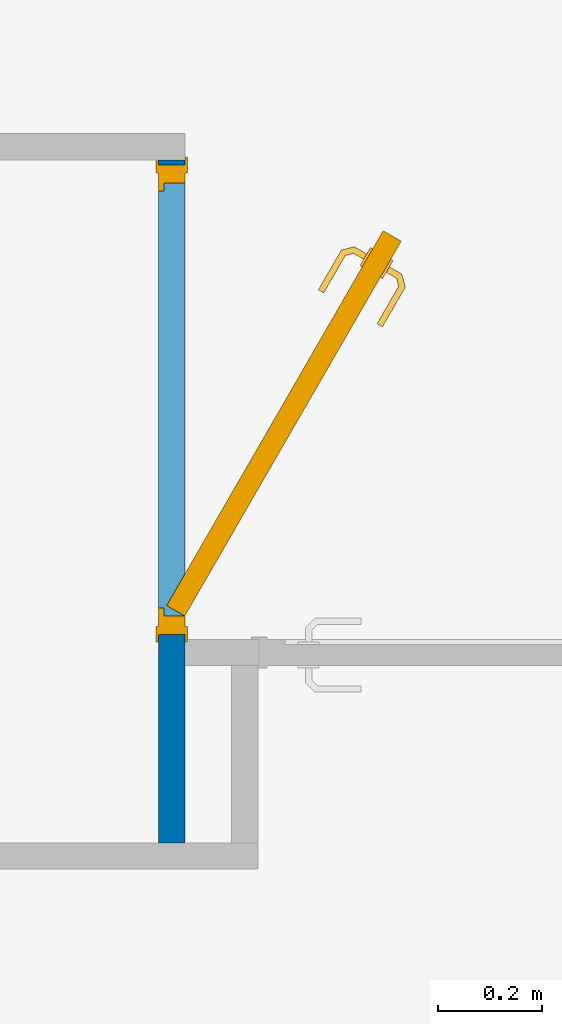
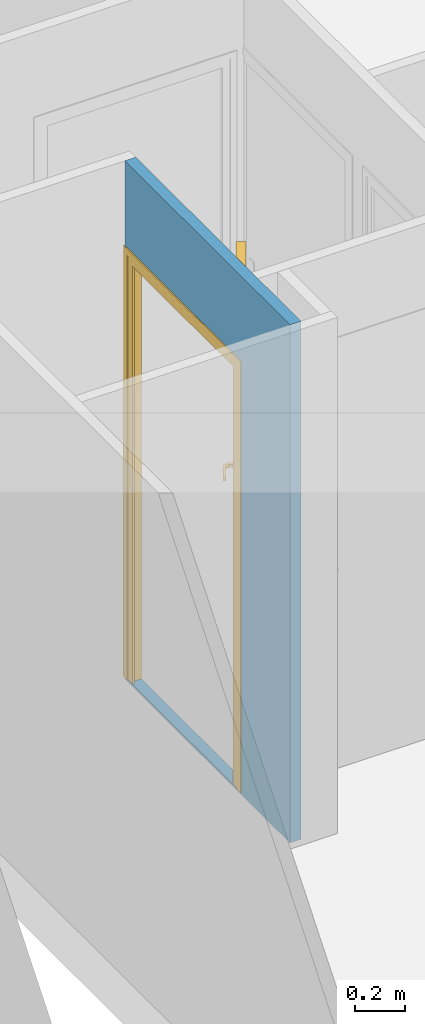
# One storey, part 4 of 13: 1 door, 1 wall, 1 opening.
"""IFC2X3 building model written with IfcOpenShell, lengths in metres."""

from ifc_helpers import new_model, entity, si_unit, converted_unit, derived_unit, direction, frame, frame_2d, origin, place, context, subcontext, project, spatial, rectangle, extrude, faceted_brep, source, transform, mapped, material, material_list, layer, layer_set, layer_usage, type_object, type_shapes, element, fill, save


model = new_model("IFC2X3")

# Units and contexts
model_context = context("Model", 3, precision=1e-05, world=origin(), true_north=direction((6.12303176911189e-17, 1.0)))
context_of_model = context(None, 3, precision=1e-05, world=origin(), true_north=direction((6.12303176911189e-17, 1.0)))
body_context = subcontext(model_context, "Body", "Model", "MODEL_VIEW")
ifc_project = project(units=[si_unit("LENGTHUNIT", "METRE"), si_unit("AREAUNIT", "SQUARE_METRE"), si_unit("VOLUMEUNIT", "CUBIC_METRE"), converted_unit("PLANEANGLEUNIT", "DEGREE", entity("IfcRatioMeasure", 0.0174532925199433), si_unit("PLANEANGLEUNIT", "RADIAN"), dimensions=[0, 0, 0, 0, 0, 0, 0]), si_unit("MASSUNIT", "GRAM", prefix="KILO"), si_unit("TIMEUNIT", "SECOND"), si_unit("FREQUENCYUNIT", "HERTZ"), si_unit("THERMODYNAMICTEMPERATUREUNIT", "DEGREE_CELSIUS"), derived_unit("THERMALTRANSMITTANCEUNIT", [(si_unit("MASSUNIT", "GRAM", prefix="KILO"), 1), (si_unit("THERMODYNAMICTEMPERATUREUNIT", "KELVIN"), -1), (si_unit("TIMEUNIT", "SECOND"), -3)]), derived_unit("VOLUMETRICFLOWRATEUNIT", [(si_unit("LENGTHUNIT", "METRE"), 3), (si_unit("TIMEUNIT", "SECOND"), -1)]), si_unit("ELECTRICCURRENTUNIT", "AMPERE"), si_unit("ELECTRICVOLTAGEUNIT", "VOLT"), si_unit("POWERUNIT", "WATT"), si_unit("FORCEUNIT", "NEWTON", prefix="KILO"), si_unit("ILLUMINANCEUNIT", "LUX"), si_unit("LUMINOUSFLUXUNIT", "LUMEN"), si_unit("LUMINOUSINTENSITYUNIT", "CANDELA"), derived_unit("USERDEFINED", [(si_unit("MASSUNIT", "GRAM", prefix="KILO"), -1), (si_unit("LENGTHUNIT", "METRE"), -2), (si_unit("TIMEUNIT", "SECOND"), 3), (si_unit("LUMINOUSFLUXUNIT", "LUMEN"), 1)]), derived_unit("LINEARVELOCITYUNIT", [(si_unit("LENGTHUNIT", "METRE"), 1), (si_unit("TIMEUNIT", "SECOND"), -1)]), si_unit("PRESSUREUNIT", "PASCAL"), derived_unit("USERDEFINED", [(si_unit("LENGTHUNIT", "METRE"), -2), (si_unit("MASSUNIT", "GRAM", prefix="KILO"), 1), (si_unit("TIMEUNIT", "SECOND"), -2)])], contexts=[model_context, context_of_model])

# Site, building, storey
site_placement = place(None, origin())
site = spatial("IfcSite", under=ifc_project, at=site_placement, Name="Surface", CompositionType="ELEMENT")
building_placement = place(site_placement, origin())
building = spatial("IfcBuilding", under=site, at=building_placement, CompositionType="ELEMENT")
storey_placement = place(building_placement, frame((0.0, 0.0, 2.74)))
storey = spatial("IfcBuildingStorey", under=building, at=storey_placement, Name="Plan étage", CompositionType="ELEMENT", Elevation=2.74)

# Wall, opening, door
ifc_material_1 = material(Name="Maçonnerie - Isolant(1)")
ifc_layer = layer(ifc_material_1, 0.05)
ifc_layer_set = layer_set([ifc_layer], Name="Mur de base:Int. plâtre 50 mm")
ifc_layer_usage = layer_usage(ifc_layer_set, "AXIS2", "NEGATIVE", 0.025)
wall_type = type_object("IfcWallType", Name="Mur de base:Int. plâtre 50 mm", PredefinedType="STANDARD", material=ifc_layer_set)
wall_placement = place(storey_placement, frame((-9.26608881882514, 1.38425578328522, -0.00999999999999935), z_axis=(0.0, 0.0, 1.0), x_axis=(0.0, -1.0, 0.0)))
wall = element("IfcWallStandardCase", 1, at=wall_placement, inside=storey, type_object=wall_type, material=ifc_layer_usage, Name="Mur de base:Int. plâtre 50 mm", ObjectType="Mur de base:Int. plâtre 50 mm", context=body_context, shape_type="SweptSolid", body=[
    extrude(rectangle(XDim=1.31, YDim=0.0499999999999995, at=frame_2d((0.655000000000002, 0.0), x_axis=(-1.0, 0.0))), origin(), (0.0, 0.0, 1.0), 2.51),
])
opening_placement = place(wall_placement, frame((0.0100000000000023, -0.025, 0.00999999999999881)))
opening = element("IfcOpeningElement", 2, at=opening_placement, cuts=wall, Name="Int. Simple:PP (0.83m x 2.04m):1", ObjectType="Opening", context=body_context, shape_type="SweptSolid", body=[
    extrude(rectangle(XDim=2.075, YDim=0.9, at=frame_2d((1.0375, 0.45), x_axis=(1.0, 0.0))), frame((0.0, 0.0, 0.0), z_axis=(0.0, 1.0, 0.0), x_axis=(0.0, 0.0, 1.0)), (0.0, 0.0, 1.0), 0.05),
])
ifc_material_2 = material(Name="Finition Peinture - Blanc satiné")
ifc_material_3 = material(Name="Bois - Panneau de porte")
ifc_material_4 = material(Name="Bois - Cadre de porte")
ifc_material_list_1 = material_list([ifc_material_2, ifc_material_3, ifc_material_4])
ifc_material_list_2 = material_list([ifc_material_2, ifc_material_3, ifc_material_4])
door_style = type_object("IfcDoorStyle", Name="PP (0.83m x 2.04m)", ConstructionType="NOTDEFINED", OperationType="SINGLE_SWING_RIGHT", ParameterTakesPrecedence=False, Sizeable=False, material=ifc_material_list_2)
shared_shape = source(origin(), body_context, "Body", "Brep", [
    faceted_brep([(0.786660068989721, -0.399330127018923, 0.870000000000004), (0.786660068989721, -0.399330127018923, 1.08), (0.778305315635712, -0.394506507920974, 1.08399601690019), (0.769339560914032, -0.389330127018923, 1.08535898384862), (0.760373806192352, -0.384153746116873, 1.08399601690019), (0.752019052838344, -0.379330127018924, 1.08), (0.752019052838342, -0.379330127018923, 0.870000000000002), (0.760373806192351, -0.384153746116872, 0.866003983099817), (0.769339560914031, -0.389330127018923, 0.86464101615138), (0.778305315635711, -0.394506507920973, 0.866003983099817), (0.789160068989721, -0.395000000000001, 1.08), (0.789160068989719, -0.395, 0.870000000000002), (0.780805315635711, -0.390176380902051, 0.866003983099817), (0.771839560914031, -0.385, 0.86464101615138), (0.76287380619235, -0.37982361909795, 0.866003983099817), (0.754519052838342, -0.375000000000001, 0.870000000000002), (0.754519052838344, -0.375000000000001, 1.08), (0.762873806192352, -0.379823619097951, 1.08399601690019), (0.771839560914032, -0.385000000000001, 1.08535898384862), (0.780805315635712, -0.390176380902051, 1.08399601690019)], [[[0, 1, 2, 3, 4, 5, 6, 7, 8, 9]], [[10, 11, 12, 13, 14, 15, 16, 17, 18, 19]], [[9, 12, 11, 0]], [[8, 13, 12, 9]], [[7, 14, 13, 8]], [[7, 6, 15, 14]], [[15, 6, 5, 16]], [[4, 17, 16, 5]], [[3, 18, 17, 4]], [[2, 19, 18, 3]], [[2, 1, 10, 19]], [[11, 10, 1, 0]]]),
    faceted_brep([(0.809160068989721, -0.360358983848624, 0.870000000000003), (0.809160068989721, -0.360358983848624, 1.08), (0.800805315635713, -0.355535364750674, 1.08399601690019), (0.791839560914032, -0.350358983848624, 1.08535898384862), (0.782873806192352, -0.345182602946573, 1.08399601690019), (0.774519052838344, -0.340358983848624, 1.08), (0.774519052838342, -0.340358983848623, 0.870000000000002), (0.782873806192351, -0.345182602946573, 0.866003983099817), (0.791839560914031, -0.350358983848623, 0.86464101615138), (0.800805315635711, -0.355535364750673, 0.866003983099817), (0.794339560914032, -0.346028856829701, 1.08535898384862), (0.803305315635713, -0.351205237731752, 1.08399601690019), (0.811660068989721, -0.356028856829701, 1.08), (0.811660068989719, -0.356028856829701, 0.870000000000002), (0.803305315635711, -0.351205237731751, 0.866003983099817), (0.794339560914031, -0.346028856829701, 0.86464101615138), (0.785373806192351, -0.34085247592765, 0.866003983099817), (0.777019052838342, -0.336028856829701, 0.870000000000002), (0.777019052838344, -0.336028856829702, 1.08), (0.785373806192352, -0.340852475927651, 1.08399601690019)], [[[0, 1, 2, 3, 4, 5, 6, 7, 8, 9]], [[10, 11, 12, 13, 14, 15, 16, 17, 18, 19]], [[4, 19, 18, 5]], [[3, 10, 19, 4]], [[2, 11, 10, 3]], [[2, 1, 12, 11]], [[13, 12, 1, 0]], [[9, 14, 13, 0]], [[8, 15, 14, 9]], [[7, 16, 15, 8]], [[7, 6, 17, 16]], [[17, 6, 5, 18]]]),
    faceted_brep([(0.767585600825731, -0.388317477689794, 1.00778044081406), (0.771093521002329, -0.390342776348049, 1.00778044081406), (0.774535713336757, -0.392330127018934, 1.00699999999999), (0.774535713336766, -0.392330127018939, 0.992999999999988), (0.771093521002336, -0.390342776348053, 0.99221955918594), (0.767585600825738, -0.388317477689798, 0.992219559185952), (0.764143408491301, -0.386330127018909, 0.993000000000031), (0.764143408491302, -0.38633012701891, 1.007), (0.758091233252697, -0.412863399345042, 1.00778044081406), (0.760710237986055, -0.416276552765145, 1.007), (0.755422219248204, -0.409385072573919, 1.00778044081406), (0.736740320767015, -0.414390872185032, 1.00778044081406), (0.73616805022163, -0.418737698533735, 1.00778044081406), (0.752803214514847, -0.405971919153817, 1.007), (0.752803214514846, -0.405971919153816, 0.993000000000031), (0.755422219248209, -0.409385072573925, 0.992219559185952), (0.758091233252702, -0.412863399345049, 0.99221955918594), (0.736168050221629, -0.418737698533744, 0.99221955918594), (0.736740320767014, -0.414390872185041, 0.992219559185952), (0.76071023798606, -0.416276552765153, 0.992999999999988), (0.735606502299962, -0.423003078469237, 1.007), (0.737301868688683, -0.410125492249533, 1.007), (0.737301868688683, -0.410125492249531, 0.993000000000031), (0.735606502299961, -0.423003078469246, 0.992999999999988), (0.659706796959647, -0.37918236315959, 1.007), (0.661694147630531, -0.375740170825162, 1.00778044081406), (0.663719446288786, -0.372232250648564, 1.00778044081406), (0.665706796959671, -0.368790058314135, 1.00699999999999), (0.665706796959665, -0.368790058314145, 0.993000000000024), (0.663719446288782, -0.372232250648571, 0.992219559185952), (0.661694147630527, -0.375740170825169, 0.99221955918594), (0.659706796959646, -0.379182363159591, 0.992999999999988), (0.699217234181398, -0.395065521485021, 1.0078786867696), (0.70102568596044, -0.403037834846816, 1.007), (0.701504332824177, -0.389457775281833, 1.007), (0.701504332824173, -0.389457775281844, 0.993000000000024), (0.699217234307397, -0.395065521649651, 0.992121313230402), (0.701025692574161, -0.403037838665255, 0.992999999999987)], [[[0, 1, 2, 3, 4, 5, 6, 7]], [[2, 1, 8, 9]], [[1, 0, 10, 11, 12, 8]], [[0, 7, 13, 10]], [[14, 13, 7, 6]], [[5, 15, 14, 6]], [[5, 4, 16, 17, 18, 15]], [[3, 19, 16, 4]], [[9, 19, 3, 2]], [[9, 8, 12, 20]], [[10, 13, 21, 11]], [[22, 21, 13, 14]], [[14, 15, 18, 22]], [[16, 19, 23, 17]], [[20, 23, 19, 9]], [[24, 25, 26, 27, 28, 29, 30, 31]], [[32, 25, 33]], [[33, 25, 24]], [[33, 20, 12]], [[11, 34, 32]], [[34, 11, 21]], [[27, 26, 34]], [[32, 26, 25]], [[32, 34, 26]], [[32, 33, 12]], [[11, 32, 12]], [[21, 22, 35, 28, 27, 34]], [[36, 29, 35]], [[30, 36, 37]], [[18, 35, 22]], [[29, 28, 35]], [[30, 37, 31]], [[37, 17, 23]], [[36, 17, 37]], [[36, 18, 17]], [[36, 35, 18]], [[29, 36, 30]], [[23, 20, 33, 24, 31, 37]]]),
    faceted_brep([(0.792585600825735, -0.345016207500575, 0.992219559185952), (0.796093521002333, -0.34704150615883, 0.99221955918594), (0.799535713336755, -0.349028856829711, 0.992999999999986), (0.799535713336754, -0.34902885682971, 1.007), (0.796093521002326, -0.347041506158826, 1.00778044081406), (0.792585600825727, -0.345016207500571, 1.00778044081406), (0.789143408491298, -0.343028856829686, 1.007), (0.789143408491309, -0.343028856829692, 0.993000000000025), (0.8003860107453, -0.323556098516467, 1.007), (0.800386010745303, -0.323556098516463, 0.993000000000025), (0.804651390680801, -0.324117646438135, 1.00778044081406), (0.808998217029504, -0.32468991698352, 1.00778044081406), (0.803073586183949, -0.302578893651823, 1.00778044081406), (0.799595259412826, -0.305247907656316, 1.00778044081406), (0.813263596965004, -0.325251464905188, 1.007), (0.813263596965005, -0.325251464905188, 0.992999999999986), (0.808998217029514, -0.324689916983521, 0.99221955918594), (0.804651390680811, -0.324117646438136, 0.992219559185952), (0.799595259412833, -0.30524790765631, 0.992219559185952), (0.803073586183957, -0.302578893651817, 0.99221955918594), (0.796182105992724, -0.307866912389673, 1.007), (0.796182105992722, -0.307866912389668, 0.993000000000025), (0.80648673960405, -0.299959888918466, 1.007), (0.806486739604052, -0.299959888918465, 0.992999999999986), (0.726669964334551, -0.263144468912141, 1.00778044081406), (0.728695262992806, -0.259636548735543, 1.00778044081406), (0.730682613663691, -0.256194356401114, 1.007), (0.730682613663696, -0.256194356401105, 0.992999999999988), (0.72869526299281, -0.259636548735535, 0.99221955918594), (0.726669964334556, -0.263144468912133, 0.992219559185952), (0.724682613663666, -0.26658666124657, 0.993000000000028), (0.724682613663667, -0.266586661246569, 1.007), (0.760432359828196, -0.287226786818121, 1.007), (0.760432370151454, -0.28722679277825, 0.993000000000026), (0.764145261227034, -0.282442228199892, 1.0078786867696), (0.771905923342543, -0.279994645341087, 1.007), (0.771905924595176, -0.279994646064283, 0.992999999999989), (0.764145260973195, -0.282442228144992, 0.992121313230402)], [[[0, 1, 2, 3, 4, 5, 6, 7]], [[8, 9, 7, 6]], [[5, 10, 8, 6]], [[5, 4, 11, 12, 13, 10]], [[3, 14, 11, 4]], [[14, 3, 2, 15]], [[2, 1, 16, 15]], [[1, 0, 17, 18, 19, 16]], [[0, 7, 9, 17]], [[20, 21, 9, 8]], [[8, 10, 13, 20]], [[14, 22, 12, 11]], [[23, 22, 14, 15]], [[15, 16, 19, 23]], [[17, 9, 21, 18]], [[24, 25, 26, 27, 28, 29, 30, 31]], [[21, 20, 32, 31, 30, 33]], [[34, 24, 32]], [[25, 34, 35]], [[13, 32, 20]], [[24, 31, 32]], [[25, 35, 26]], [[35, 12, 22]], [[34, 12, 35]], [[34, 13, 12]], [[34, 32, 13]], [[24, 34, 25]], [[22, 23, 36, 27, 26, 35]], [[37, 28, 36]], [[36, 28, 27]], [[36, 23, 19]], [[18, 33, 37]], [[33, 18, 21]], [[30, 29, 33]], [[37, 29, 28]], [[37, 33, 29]], [[37, 36, 19]], [[18, 37, 19]]]),
    faceted_brep([(0.843801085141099, -0.380358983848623, 2.04), (0.843801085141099, -0.380358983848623, 0.0), (0.125000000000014, 0.0346410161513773, 0.0), (0.125000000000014, 0.0346410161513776, 2.04), (0.823801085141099, -0.415, 2.04), (0.105000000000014, 0.0, 2.04), (0.105000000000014, 0.0, 0.0), (0.823801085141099, -0.415, 0.0)], [[[0, 1, 2, 3]], [[4, 5, 6, 7]], [[3, 5, 4, 0]], [[2, 6, 5, 3]], [[1, 7, 6, 2]], [[0, 4, 7, 1]]]),
    faceted_brep([(0.970000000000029, 0.0, 0.0), (0.935000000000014, 0.0, 0.0), (0.935000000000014, 0.040000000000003, 0.0), (0.920000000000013, 0.040000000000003, 0.0), (0.920000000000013, 0.050000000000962, 0.0), (0.970000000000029, 0.050000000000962, 0.0), (0.970000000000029, 0.050000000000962, 2.07500000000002), (0.970000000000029, 0.0, 2.07500000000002), (0.920000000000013, 0.050000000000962, 2.025), (0.120000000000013, 0.050000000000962, 2.025), (0.120000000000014, 0.050000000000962, 0.0), (0.0699999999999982, 0.050000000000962, 0.0), (0.0699999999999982, 0.050000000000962, 2.07500000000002), (0.920000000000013, 0.040000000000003, 2.025), (0.935000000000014, 0.040000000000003, 2.04), (0.105000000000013, 0.040000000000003, 2.04), (0.105000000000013, 0.040000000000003, 0.0), (0.120000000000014, 0.040000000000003, 0.0), (0.120000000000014, 0.040000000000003, 2.025), (0.935000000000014, 0.0, 2.04), (0.069999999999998, 0.0, 2.07500000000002), (0.0699999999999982, 0.0, 0.0), (0.105000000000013, 0.0, 0.0), (0.105000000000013, 0.0, 2.04)], [[[0, 1, 2, 3, 4, 5]], [[5, 6, 7, 0]], [[4, 8, 9, 10, 11, 12, 6, 5]], [[3, 13, 8, 4]], [[2, 14, 15, 16, 17, 18, 13, 3]], [[1, 19, 14, 2]], [[0, 7, 20, 21, 22, 23, 19, 1]], [[12, 11, 21, 20]], [[21, 11, 10, 17, 16, 22]], [[18, 17, 10, 9]], [[23, 22, 16, 15]], [[6, 12, 20, 7]], [[13, 18, 9, 8]], [[19, 23, 15, 14]]]),
    faceted_brep([(0.955000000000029, 0.050000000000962, 0.0), (0.955000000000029, 0.055000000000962, 0.0), (0.985000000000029, 0.055000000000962, 0.0), (0.985000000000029, 0.050000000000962, 0.0), (0.985000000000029, 0.050000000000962, 2.09000000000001), (0.0550000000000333, 0.050000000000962, 2.09000000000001), (0.0550000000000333, 0.050000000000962, 0.0), (0.0850000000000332, 0.050000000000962, 0.0), (0.0850000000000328, 0.050000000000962, 2.06000000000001), (0.955000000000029, 0.050000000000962, 2.06000000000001), (0.985000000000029, 0.055000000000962, 2.09000000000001), (0.955000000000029, 0.055000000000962, 2.06000000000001), (0.0850000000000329, 0.055000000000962, 2.06000000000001), (0.0850000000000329, 0.055000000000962, 0.0), (0.055000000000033, 0.055000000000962, 0.0), (0.0550000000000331, 0.055000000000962, 2.09000000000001)], [[[0, 1, 2, 3]], [[3, 4, 5, 6, 7, 8, 9, 0]], [[2, 10, 4, 3]], [[1, 11, 12, 13, 14, 15, 10, 2]], [[0, 9, 11, 1]], [[7, 6, 14, 13]], [[8, 7, 13, 12]], [[15, 14, 6, 5]], [[10, 15, 5, 4]], [[9, 8, 12, 11]]]),
    faceted_brep([(0.985000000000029, -0.005, 0.0), (0.985000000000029, -0.005, 2.09000000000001), (0.0550000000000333, -0.005, 2.09000000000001), (0.0550000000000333, -0.005, 0.0), (0.0850000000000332, -0.005, 0.0), (0.0850000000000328, -0.005, 2.06000000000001), (0.955000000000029, -0.005, 2.06000000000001), (0.955000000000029, -0.005, 0.0), (0.985000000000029, 0.0, 0.0), (0.985000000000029, 0.0, 2.09000000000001), (0.955000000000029, 0.0, 0.0), (0.955000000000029, 0.0, 2.06000000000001), (0.0850000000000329, 0.0, 2.06000000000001), (0.0850000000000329, 0.0, 0.0), (0.055000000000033, 0.0, 0.0), (0.0550000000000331, 0.0, 2.09000000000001)], [[[0, 1, 2, 3, 4, 5, 6, 7]], [[8, 9, 1, 0]], [[10, 11, 12, 13, 14, 15, 9, 8]], [[7, 6, 11, 10]], [[5, 4, 13, 12]], [[15, 14, 3, 2]], [[9, 15, 2, 1]], [[6, 5, 12, 11]], [[4, 3, 14, 13]], [[7, 10, 8, 0]]]),
])
type_shapes(door_style, [shared_shape])
door_placement = place(opening_placement, frame((0.970000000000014, 0.0499999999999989, 0.0), z_axis=(0.0, 0.0, 1.0), x_axis=(-1.0, 0.0, 0.0)))
door = element("IfcDoor", 3, at=door_placement, inside=storey, type_object=door_style, material=ifc_material_list_1, Name="Int. Simple:PP (0.83m x 2.04m)", ObjectType="PP (0.83m x 2.04m)", OverallHeight=2.075, OverallWidth=0.9, context=body_context, shape_type="MappedRepresentation", body=[
    mapped(shared_shape, transform((0.0, 0.0, 0.0), scale=1.0)),
])
fill(opening, door)

save(model, "model.ifc")
